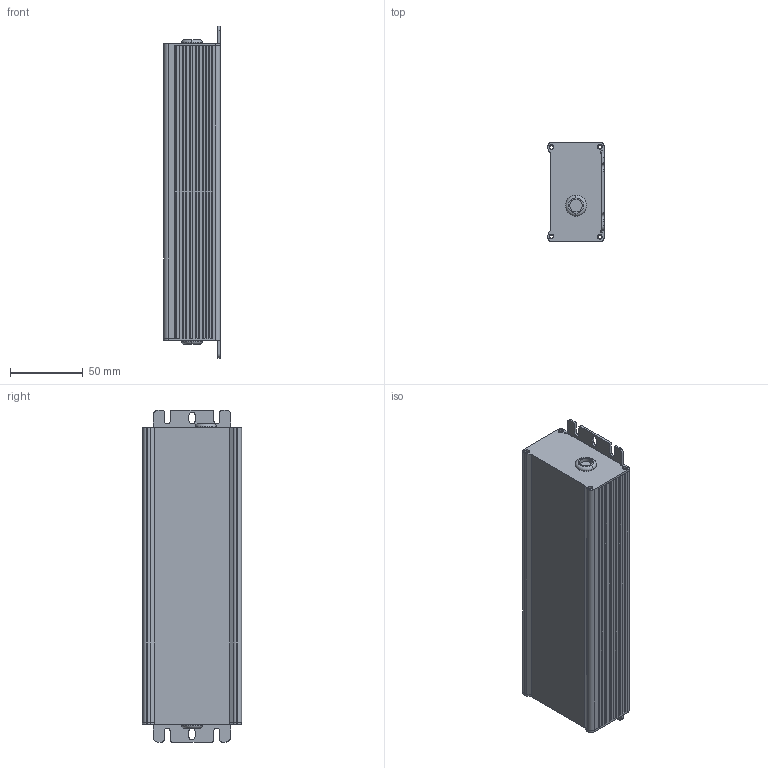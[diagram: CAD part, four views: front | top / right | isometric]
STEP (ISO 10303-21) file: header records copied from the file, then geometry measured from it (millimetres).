
FILE_DESCRIPTION(('Creo Elements/Direct Modeling STEP Export'),'2;1');
FILE_NAME('HEP-185-B.stp','2017-04-18T 9:36:48',(''),(''),'PTC Creo Elements/Direct Modeling STEP processor for AP214 (Solid Model)','PTC Creo Elements/Direct Modeling 19.0 09-May-2014 (C) Parametric Technology GmbH','');
FILE_SCHEMA(('AUTOMOTIVE_DESIGN { 1 0 10303 214 1 1 1 1 }'));
Length unit declared in the file: millimetre
Products named in the file (1): HEP-185-B
Bounding box: 38.74 x 68.05 x 228 mm (x, y, z)
Volume: 96116.9 mm3; surface area: 103676.7 mm2
Topology: 1 solids, 1 shells, 247 faces, 709 edges, 458 vertices
Faces by surface type: plane 158, cylinder 81, torus 8
Entity records: 7520 total; most frequent: ORIENTED_EDGE 1418, CARTESIAN_POINT 1287, DIRECTION 1184, EDGE_CURVE 709, VECTOR 474, LINE 474, VERTEX_POINT 458, AXIS2_PLACEMENT_3D 355
